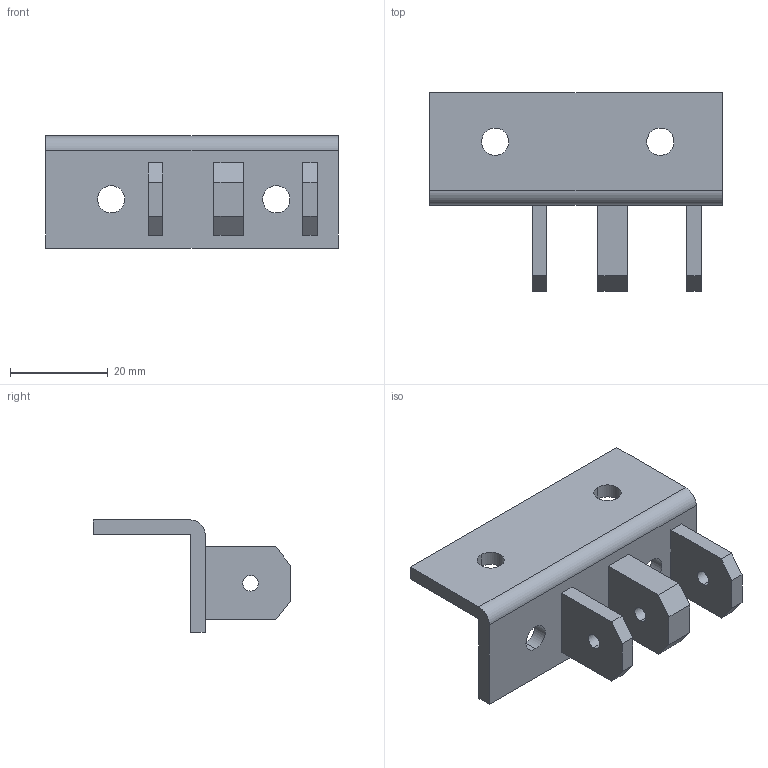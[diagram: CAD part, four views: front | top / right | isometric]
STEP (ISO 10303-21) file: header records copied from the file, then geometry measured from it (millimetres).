
FILE_DESCRIPTION(/* description */ ('STEP AP242 Edition 2','CAx-IF Rec.Pracs.---Representation and Presentation of Product Manufacturing Information (PMI)---4.0---2014-10-13','CAx-IF Rec.Pracs.---3D Tessellated Geometry---0.4---2014-09-14','2;1','CAx-IF Rec.Pracs.---User Defined Attributes---1.5---2016-08-15'),/* implementation_level */ '2;1');
FILE_NAME(/* name */ 'Assembly 1 - Part 9 (8)',/* time_stamp */ '2026-10-08T06:00:20Z',/* author */ (''),/* organization */ (''),/* preprocessor_version */ 'ST-DEVELOPER v20',/* originating_system */ 'ONSHAPE BY PTC INC, 1.221',/* authorisation */ ' ');
FILE_SCHEMA (('AP242_MANAGED_MODEL_BASED_3D_ENGINEERING_MIM_LF { 1 0 10303 442 3 1 4 }'));
Length unit declared in the file: metre
Products named in the file (1): Part 9
Bounding box: 60 x 40.6 x 23 mm (x, y, z)
Volume: 10227.9 mm3; surface area: 7654.8 mm2
Topology: 1 solids, 1 shells, 44 faces, 117 edges, 78 vertices
Faces by surface type: bspline 44
Entity records: 1438 total; most frequent: CARTESIAN_POINT 446, ORIENTED_EDGE 234, DIRECTION 135, EDGE_CURVE 117, VERTEX_POINT 78, LINE 73, VECTOR 73, EDGE_LOOP 61
